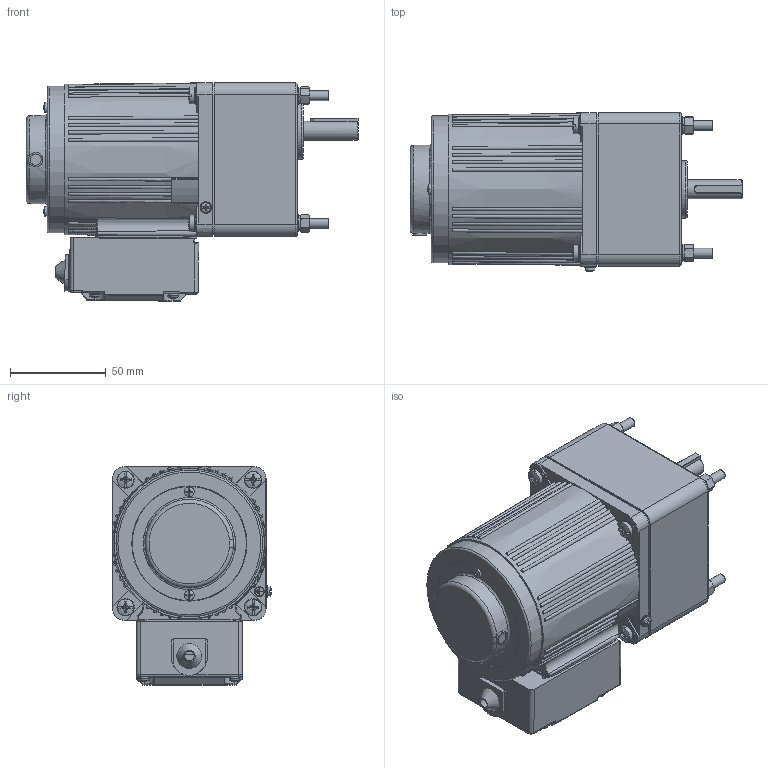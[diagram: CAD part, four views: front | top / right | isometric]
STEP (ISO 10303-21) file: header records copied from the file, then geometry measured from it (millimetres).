
FILE_DESCRIPTION(/* description */ (''),/* implementation_level */ '2;1');
FILE_NAME(/* name */ '4RK25-40RGNC·T-4GN25-750K-C·10T长款接线盒.stp',/* time_stamp */ '2025-04-13T15:43:01+08:00',/* author */ (''),/* organization */ (''),/* preprocessor_version */ 'ST-DEVELOPER v18.102',/* originating_system */ 'SIEMENS PLM Software NX 2027',/* authorisation */ '');
FILE_SCHEMA (('AP203_CONFIGURATION_CONTROLLED_3D_DESIGN_OF_MECHANICAL_PARTS_AND_ASSEMBLIES_MIM_LF { 1 0 10303 403 2 1 2}'));
Products named in the file (1): 4RK25-40CC·R-4GN25-750K-C·10T_stp_objects
Bounding box: 173 x 82.78 x 113.83 mm (x, y, z)
Volume: 775103.5 mm3; surface area: 123323.9 mm2
Topology: 20 solids, 20 shells, 1627 faces, 4209 edges, 2683 vertices
Faces by surface type: plane 662, cylinder 400, bspline 284, cone 144, torus 99, sphere 38
Full cylindrical faces by diameter (mm): 2.2 x2, 2.6 x1, 2.7 x1, 2.9 x4, 3.2 x1, 3.5 x2, 4 x1, 4.2 x1, 4.351 x4, 4.4 x1, 4.6 x4, 4.8 x1, 5 x5, 5.1 x3, 5.3 x8, 5.6 x4, 5.8 x1, 6 x11, 6.5 x4, 7 x1, 7.4 x1, 8 x1, 8.2 x1, 8.5 x4, 9 x8, 10 x3, 10.5 x1, 19 x1, 26 x1, 30 x1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
Entity records: 56595 total; most frequent: CARTESIAN_POINT 20377, ORIENTED_EDGE 7888, DIRECTION 6453, EDGE_CURVE 3944, VERTEX_POINT 2611, AXIS2_PLACEMENT_3D 2506, EDGE_LOOP 1934, ADVANCED_FACE 1625
